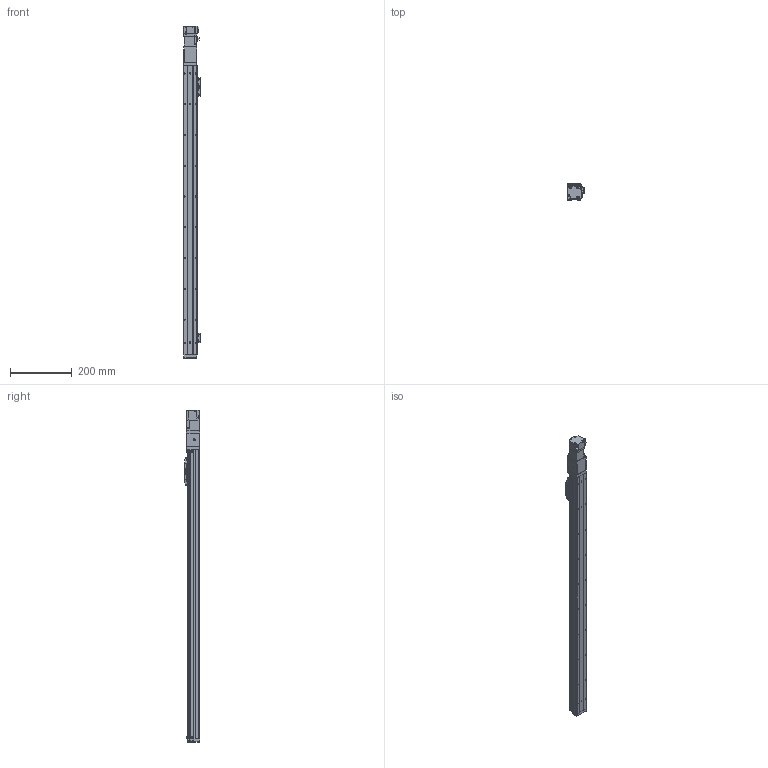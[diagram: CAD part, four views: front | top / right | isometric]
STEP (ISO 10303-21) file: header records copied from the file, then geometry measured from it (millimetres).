
FILE_DESCRIPTION (( 'STEP AP203' ), '1' );
FILE_NAME ('GTH4-800-BC-M05-C4.step', '2023-08-28T00:40:14', ( '微软用户' ), ( '微软中国' ), 'SwSTEP 2.0', 'SolidWorks 2020', '' );
FILE_SCHEMA (( 'CONFIG_CONTROL_DESIGN' ));
Length unit declared in the file: millimetre
Products named in the file (19): BTH40-003; BTH40-004; GBT 70.1-M3℅6; BTH40-006; BTH40-013; GBT96.1-2002 3×0.8; BTH-M3X5X6; BTH40-022; HG-KR13; GBT70.1-2000 M3×16; GBT 70.1-M2.5×6; GBT 70.3-M3℅6; BTH50-028; BTH40-017_笢俶; BTH50-023; BTH40-005-1; BTH40-001-50_BTH40-001-800; BTH50-024; GTH4-800-BC-M05-C4
Assembly tree (49 placements, depth 2):
  GTH4-800-BC-M05-C4
    BTH40-001-50_BTH40-001-800
    BTH40-003
    BTH40-006
    BTH-M3X5X6  x10
    GBT70.1-2000 M3×16  x4
    BTH50-028  x2
    BTH50-023  x3
    BTH50-024  x3
    GBT 70.1-M3℅6  x6
    GBT96.1-2002 3×0.8  x6
    BTH40-022
    GBT 70.1-M2.5×6  x2
    BTH40-004
    BTH40-013
    HG-KR13
    GBT 70.3-M3℅6  x4
    BTH40-017_笢俶
    BTH40-005-1
Bounding box: 55.2 x 52 x 1079.4 mm (x, y, z)
Volume: 1655266.1 mm3; surface area: 286592.9 mm2
Topology: 51 solids, 51 shells, 1876 faces, 4410 edges, 2726 vertices
Faces by surface type: plane 1026, cylinder 477, cone 237, torus 132, sphere 4
Entity records: 34736 total; most frequent: DIRECTION 5629, CARTESIAN_POINT 5619, ORIENTED_EDGE 5282, EDGE_CURVE 2641, AXIS2_PLACEMENT_3D 1899, VECTOR 1831, LINE 1831, VERTEX_POINT 1657
